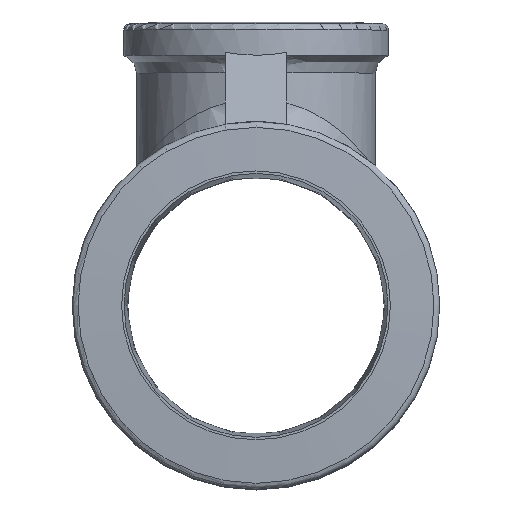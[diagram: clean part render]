
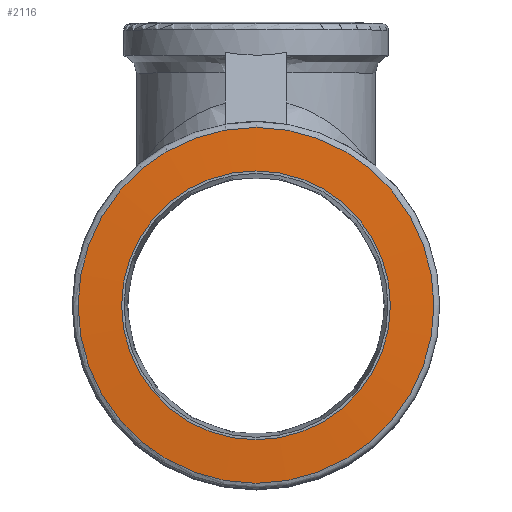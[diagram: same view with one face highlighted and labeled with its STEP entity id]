
A CAD part, top view. The second image highlights one B-rep face of the part: STEP entity #2116.
In plain terms, the highlighted conical face has half-angle 87 degrees and reference radius 25.8 mm.
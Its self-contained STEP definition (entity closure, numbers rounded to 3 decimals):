
#1930=CARTESIAN_POINT('',(21.8,0.,42.0));
#1931=VERTEX_POINT('',#1930);
#1932=CARTESIAN_POINT('',(0.0,0.0,42.0));
#1933=DIRECTION('',(0.0,0.0,-1.0));
#1934=DIRECTION('',(-1.0,0.0,0.0));
#1935=AXIS2_PLACEMENT_3D('',#1932,#1933,#1934);
#1936=CIRCLE('',#1935,21.8);
#1937=EDGE_CURVE('',#1931,#1931,#1936,.T.);
#2097=CARTESIAN_POINT('',(0.0,0.0,41.79));
#2098=DIRECTION('',(0.0,0.0,-1.0));
#2099=DIRECTION('',(-1.0,0.0,0.0));
#2100=AXIS2_PLACEMENT_3D('',#2097,#2098,#2099);
#2101=CONICAL_SURFACE('',#2100,25.8,87.);
#2102=ORIENTED_EDGE('',*,*,#1937,.T.);
#2103=EDGE_LOOP('',(#2102));
#2104=FACE_OUTER_BOUND('',#2103,.T.);
#2105=CARTESIAN_POINT('',(28.852,0.,41.63));
#2106=VERTEX_POINT('',#2105);
#2107=CARTESIAN_POINT('',(0.0,0.,41.63));
#2108=DIRECTION('',(0.0,0.0,-1.0));
#2109=DIRECTION('',(-1.0,0.0,0.0));
#2110=AXIS2_PLACEMENT_3D('',#2107,#2108,#2109);
#2111=CIRCLE('',#2110,28.852);
#2112=EDGE_CURVE('',#2106,#2106,#2111,.T.);
#2113=ORIENTED_EDGE('',*,*,#2112,.F.);
#2114=EDGE_LOOP('',(#2113));
#2115=FACE_BOUND('',#2114,.T.);
#2116=ADVANCED_FACE('',(#2104,#2115),#2101,.T.);
